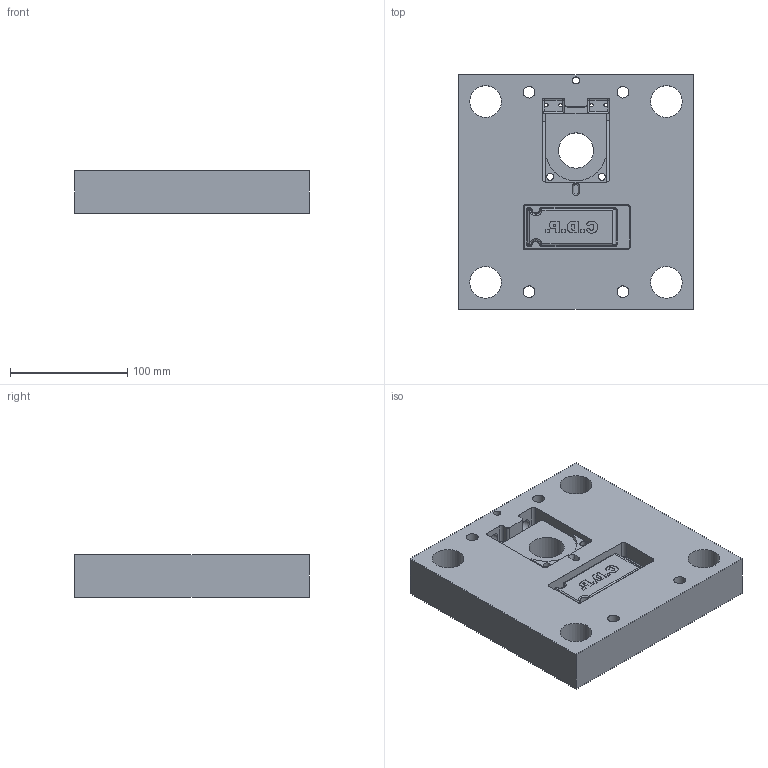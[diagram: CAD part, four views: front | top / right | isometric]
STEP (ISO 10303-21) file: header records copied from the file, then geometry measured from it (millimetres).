
FILE_DESCRIPTION( ( 'Unknown' ), '1' );
FILE_NAME( 'C:/Drawings/CDP/Support Bracket 91 Pitch And Shaft Support/Loose Support and 300 Shaft Support/Tooldrawings/MH Die Plate Outer Core Pins.stp', 'Unknown', ( 'Unknown' ), ( 'Unknown' ), 'XStep 1.0', 'Unknown', ' ' );
FILE_SCHEMA( ( 'CONFIG_CONTROL_DESIGN' ) );
Length unit declared in the file: millimetre
Products named in the file (1): 1
Bounding box: 200 x 200 x 36.2 mm (x, y, z)
Volume: 1253072.2 mm3; surface area: 140442.1 mm2
Topology: 1 solids, 1 shells, 196 faces, 480 edges, 291 vertices
Faces by surface type: plane 74, cylinder 70, torus 18, cone 16, bspline 8, extrusion 6, sphere 4
Full cylindrical faces by diameter (mm): 3 x4, 6 x3, 10 x6, 10.106 x4, 20 x1, 27 x4, 30 x1, 32 x4
Entity records: 8046 total; most frequent: CARTESIAN_POINT 3567, DIRECTION 924, ORIENTED_EDGE 846, EDGE_CURVE 423, AXIS2_PLACEMENT_3D 348, VERTEX_POINT 279, EDGE_LOOP 278, VECTOR 228
